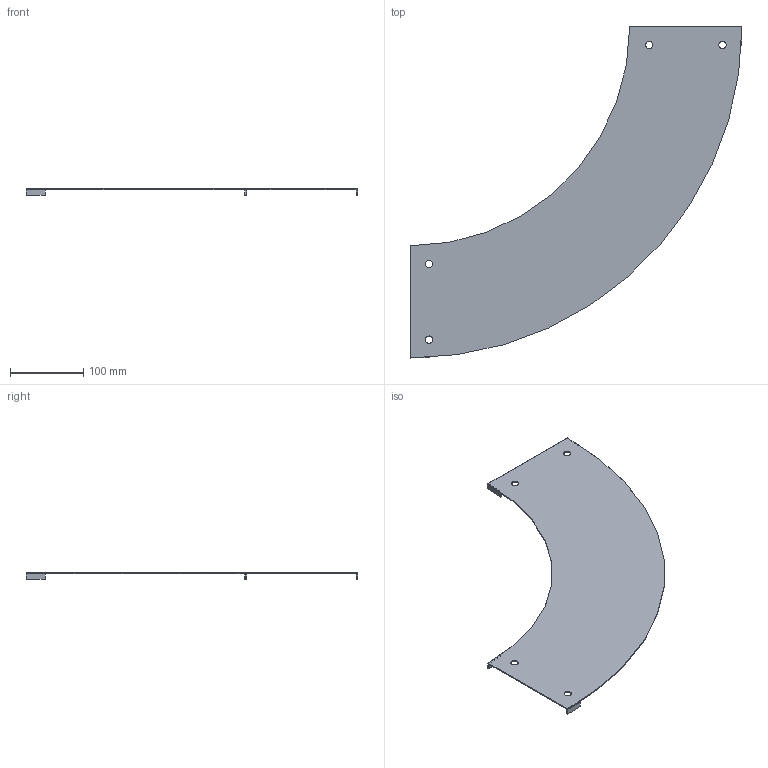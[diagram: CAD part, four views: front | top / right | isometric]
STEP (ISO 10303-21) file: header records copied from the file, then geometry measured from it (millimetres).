
FILE_DESCRIPTION(/* description */ ('','CAx-IF Rec.Pracs.---Representation and Presentation of Product Manufacturing Information (PMI)---4.0---2014-10-13'),/* implementation_level */ '2;1');
FILE_NAME(/* name */ 'Eurostrut_EFBC100-90-300_Cover Bend 90 for Cable Ladder ECL.step',/* time_stamp */ '2026-09-10T08:47:43+02:00',/* author */ (''),/* organization */ (''),/* preprocessor_version */ 'ST-DEVELOPER v20.1',/* originating_system */ 'Autodesk Revit 2027 27.2.0.39',/* authorisation */ '');
FILE_SCHEMA (('AP242_MANAGED_MODEL_BASED_3D_ENGINEERING_MIM_LF { 1 0 10303 442 2 1 4 }'));
Length unit declared in the file: millimetre
Products named in the file (5): TopLevelAssembly; Sweep; Sweep_1; Joined Solid Geometry; Joined Solid Geometry_1
Assembly tree (4 placements, depth 2):
  TopLevelAssembly
    Sweep
    Sweep_1
    Joined Solid Geometry
    Joined Solid Geometry_1
Bounding box: 452.5 x 452.5 x 9 mm (x, y, z)
Volume: 136345.4 mm3; surface area: 184706.8 mm2
Topology: 9 solids, 9 shells, 66 faces, 144 edges, 96 vertices
Faces by surface type: plane 48, cylinder 18
Entity records: 1904 total; most frequent: DIRECTION 330, CARTESIAN_POINT 315, ORIENTED_EDGE 288, EDGE_CURVE 144, AXIS2_PLACEMENT_3D 111, LINE 108, VECTOR 108, VERTEX_POINT 96
